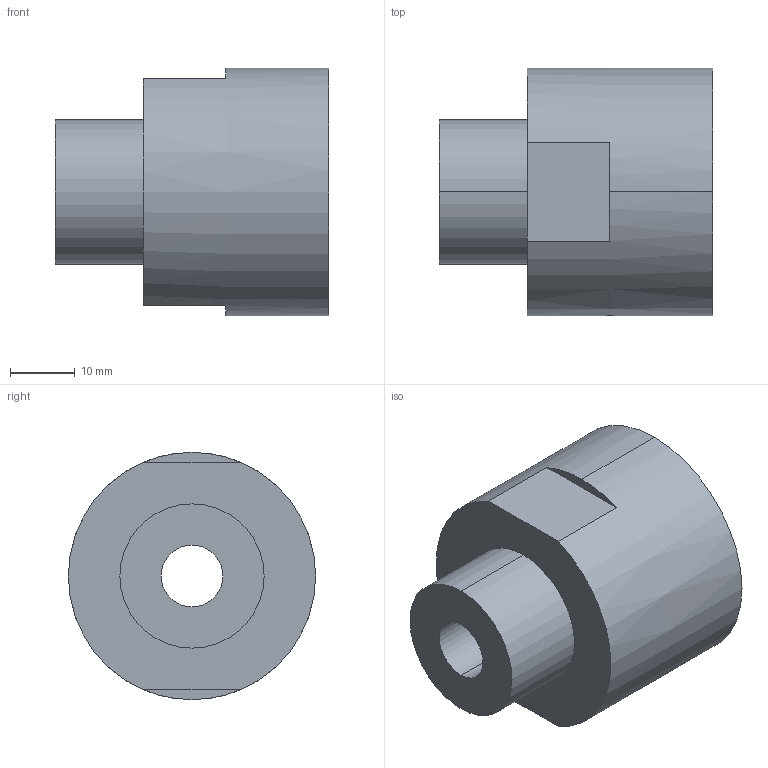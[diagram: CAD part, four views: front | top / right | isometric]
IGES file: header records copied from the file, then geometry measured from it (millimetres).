
Start section: SolidWorks IGES file using analytic representation for surfaces
Global section: file name: S:\Product Visuals\FILES FOR PUBLICATION\SOLID MODELS FOR PUBLICATION\30\5\front-straight-outlet\6\n-(female-npt)\7\fitting-fnpt-12.IGS; native system: SolidWorks 2012; preprocessor: SolidWorks 2012; author: rachel.dressel; date: 121113.083626; units: inch
Bounding box: 42.19 x 38.1 x 38.1 mm (x, y, z)
Volume: 27649.6 mm3; surface area: 8589.4 mm2
Topology: 1 solids, 1 shells, 18 faces, 40 edges, 26 vertices
Faces by surface type: revolution 10, plane 8
